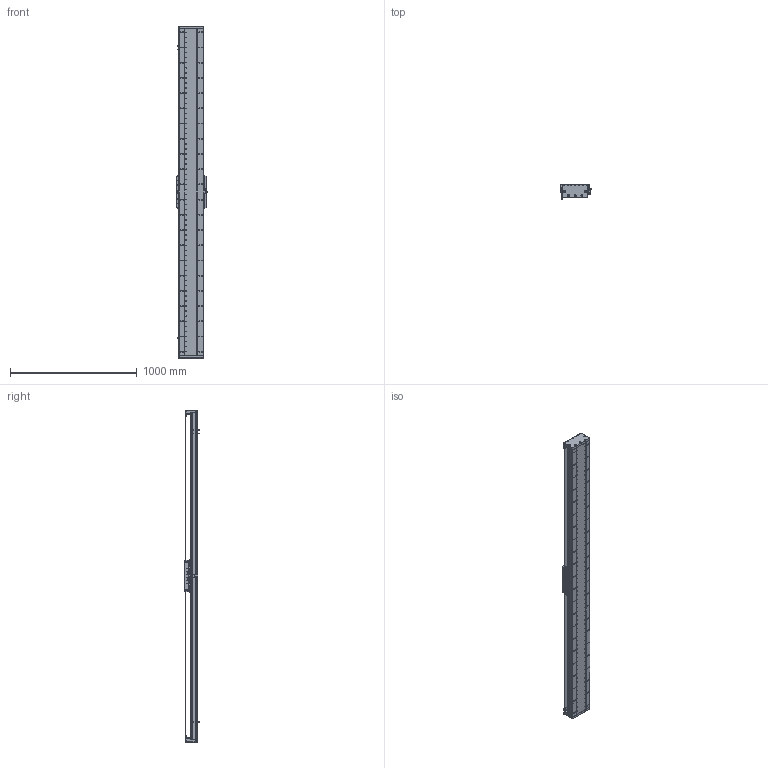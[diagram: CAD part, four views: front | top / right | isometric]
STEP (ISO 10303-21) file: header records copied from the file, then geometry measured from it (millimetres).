
FILE_DESCRIPTION (( 'STEP AP203' ), '1' );
FILE_NAME ('DA-C195-C3-T2280-C010-0.2 眻盄萇儂.STEP', '2025-08-15T01:33:25', ( '' ), ( '' ), 'SwSTEP 2.0', 'SolidWorks 2019', '' );
FILE_SCHEMA (( 'CONFIG_CONTROL_DESIGN' ));
Length unit declared in the file: millimetre
Products named in the file (15): IU-CU195-L-00 菁釱(L2580); DA195詩湍裔啣; PM-T45ㄗ侂狟ㄘ; IU-CU195-L 菁釱絳寢; MS200 棠掑喜S315-T240; 葩璃 DA95-GT-T-00; DA-C195-C3-T2280-C010-0.2 眻盄萇儂; LMT黍杅芛; DA195詩湍菜輸; DA195詩湍郪璃; DA-C195-GD-DB-H-00 傷啣; DA195詩湍嶺輸; DA165-GYP-00 光电感应片(默认); CU195-C3賑輸-俋楷; DA95-HXJ-00 遣喳砎蝶
Assembly tree (29 placements, depth 3):
  DA-C195-C3-T2280-C010-0.2 眻盄萇儂
    DA195詩湍郪璃
      DA195詩湍菜輸  x2
      DA195詩湍裔啣
      DA195詩湍嶺輸  x2
      DA95-HXJ-00 遣喳砎蝶  x8
      DA-C195-GD-DB-H-00 傷啣  x2
    IU-CU195-L 菁釱絳寢
      IU-CU195-L-00 菁釱(L2580)
      葩璃 DA95-GT-T-00  x4
    LMT黍杅芛
    MS200 棠掑喜S315-T240
    PM-T45ㄗ侂狟ㄘ  x3
    DA165-GYP-00 光电感应片(默认)
    CU195-C3賑輸-俋楷
Bounding box: 248 x 115.45 x 2620 mm (x, y, z)
Volume: 15426901.2 mm3; surface area: 4529735.1 mm2
Topology: 86 solids, 118 shells, 4336 faces, 12207 edges, 7697 vertices
Faces by surface type: cylinder 2370, plane 1364, cone 514, torus 52, sphere 36
Entity records: 139741 total; most frequent: CARTESIAN_POINT 37884, ORIENTED_EDGE 21330, DIRECTION 20486, EDGE_CURVE 10665, AXIS2_PLACEMENT_3D 7693, VERTEX_POINT 6899, LINE 5100, VECTOR 5100
